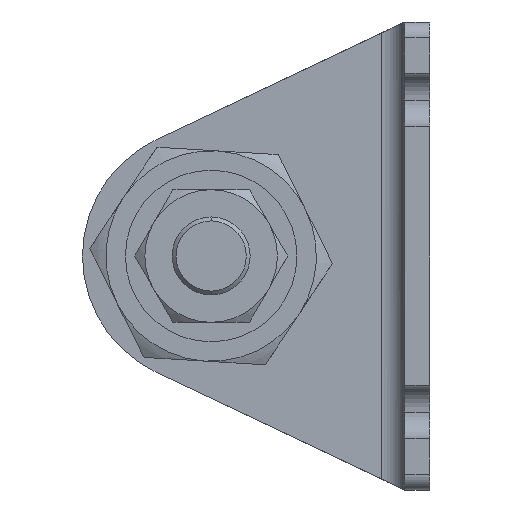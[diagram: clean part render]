
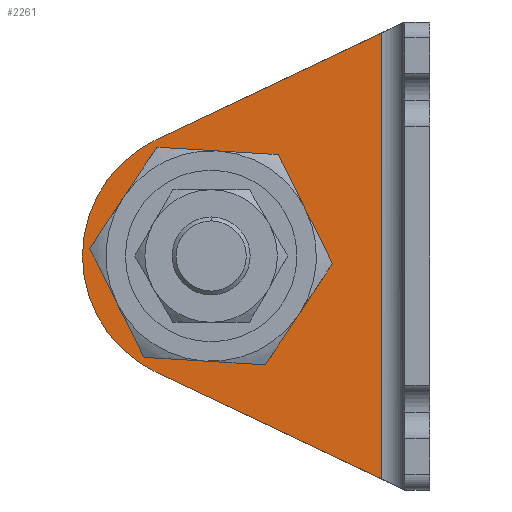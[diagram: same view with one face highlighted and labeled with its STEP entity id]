
A CAD part, left-side view. The second image highlights one B-rep face of the part: STEP entity #2261.
In plain terms, the highlighted planar face has unit normal (-1, 0, 0) as drawn and (1, 0, 0) by its records, which use the part's own axes.
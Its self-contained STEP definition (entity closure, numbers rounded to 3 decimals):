
#90 = VERTEX_POINT ( 'NONE', #1363 ) ;
#116 = CARTESIAN_POINT ( 'NONE',  ( 3.2, 44.5, -30. ) ) ;
#181 = CARTESIAN_POINT ( 'NONE',  ( 3.2, 6.2, -60. ) ) ;
#371 = ORIENTED_EDGE ( 'NONE', *, *, #2747, .T. ) ;
#384 = DIRECTION ( 'NONE',  ( 0., 1., 0. ) ) ;
#569 = DIRECTION ( 'NONE',  ( 0., 1., 0. ) ) ;
#578 = DIRECTION ( 'NONE',  ( 0., 1., 0. ) ) ;
#627 = EDGE_CURVE ( 'NONE', #90, #1677, #2644, .T. ) ;
#630 = EDGE_CURVE ( 'NONE', #4085, #2565, #723, .T. ) ;
#723 = CIRCLE ( 'NONE', #2552, 11.5 ) ;
#750 = EDGE_LOOP ( 'NONE', ( #3945, #1375 ) ) ;
#768 = DIRECTION ( 'NONE',  ( 1., 0., 0. ) ) ;
#800 = CARTESIAN_POINT ( 'NONE',  ( 3.2, 26.408, -10.99 ) ) ;
#1004 = DIRECTION ( 'NONE',  ( 0., 0.904, -0.428 ) ) ;
#1063 = EDGE_LOOP ( 'NONE', ( #3465, #1917, #371, #3527, #1204 ) ) ;
#1087 = LINE ( 'NONE', #181, #1550 ) ;
#1170 = CARTESIAN_POINT ( 'NONE',  ( 3.2, 35.062, -15.087 ) ) ;
#1204 = ORIENTED_EDGE ( 'NONE', *, *, #1650, .T. ) ;
#1205 = AXIS2_PLACEMENT_3D ( 'NONE', #4212, #2509, #569 ) ;
#1306 = DIRECTION ( 'NONE',  ( 0., 1., 0. ) ) ;
#1363 = CARTESIAN_POINT ( 'NONE',  ( 3.2, 6.2, -1.421 ) ) ;
#1375 = ORIENTED_EDGE ( 'NONE', *, *, #630, .F. ) ;
#1422 = PLANE ( 'NONE',  #1205 ) ;
#1509 = VERTEX_POINT ( 'NONE', #2476 ) ;
#1532 = EDGE_CURVE ( 'NONE', #2565, #4085, #3562, .T. ) ;
#1550 = VECTOR ( 'NONE', #3963, 1000. ) ;
#1627 = CARTESIAN_POINT ( 'NONE',  ( 3.2, 28., -30. ) ) ;
#1650 = EDGE_CURVE ( 'NONE', #3878, #1677, #1833, .T. ) ;
#1657 = DIRECTION ( 'NONE',  ( 0., 0.904, 0.428 ) ) ;
#1677 = VERTEX_POINT ( 'NONE', #1170 ) ;
#1833 = CIRCLE ( 'NONE', #3218, 16.5 ) ;
#1902 = VECTOR ( 'NONE', #1657, 1000. ) ;
#1917 = ORIENTED_EDGE ( 'NONE', *, *, #2914, .T. ) ;
#2261 = ADVANCED_FACE ( 'NONE', ( #3933, #2580 ), #1422, .T. ) ;
#2476 = CARTESIAN_POINT ( 'NONE',  ( 3.2, 35.062, -44.913 ) ) ;
#2481 = CIRCLE ( 'NONE', #3880, 16.5 ) ;
#2509 = DIRECTION ( 'NONE',  ( 1., 0., 0. ) ) ;
#2552 = AXIS2_PLACEMENT_3D ( 'NONE', #1627, #4225, #578 ) ;
#2565 = VERTEX_POINT ( 'NONE', #3861 ) ;
#2580 = FACE_BOUND ( 'NONE', #750, .T. ) ;
#2619 = CARTESIAN_POINT ( 'NONE',  ( 3.2, 28., -30. ) ) ;
#2644 = LINE ( 'NONE', #800, #4011 ) ;
#2685 = DIRECTION ( 'NONE',  ( 1., 0., 0. ) ) ;
#2747 = EDGE_CURVE ( 'NONE', #3569, #1509, #3436, .T. ) ;
#2760 = AXIS2_PLACEMENT_3D ( 'NONE', #4181, #2685, #4258 ) ;
#2822 = DIRECTION ( 'NONE',  ( 1., 0., 0. ) ) ;
#2897 = EDGE_CURVE ( 'NONE', #1509, #3878, #2481, .T. ) ;
#2914 = EDGE_CURVE ( 'NONE', #90, #3569, #1087, .T. ) ;
#3044 = CARTESIAN_POINT ( 'NONE',  ( 3.2, 16.5, -30. ) ) ;
#3218 = AXIS2_PLACEMENT_3D ( 'NONE', #2619, #768, #1306 ) ;
#3436 = LINE ( 'NONE', #3908, #1902 ) ;
#3465 = ORIENTED_EDGE ( 'NONE', *, *, #627, .F. ) ;
#3527 = ORIENTED_EDGE ( 'NONE', *, *, #2897, .T. ) ;
#3562 = CIRCLE ( 'NONE', #2760, 11.5 ) ;
#3569 = VERTEX_POINT ( 'NONE', #3858 ) ;
#3858 = CARTESIAN_POINT ( 'NONE',  ( 3.2, 6.2, -58.579 ) ) ;
#3861 = CARTESIAN_POINT ( 'NONE',  ( 3.2, 39.5, -30. ) ) ;
#3878 = VERTEX_POINT ( 'NONE', #116 ) ;
#3880 = AXIS2_PLACEMENT_3D ( 'NONE', #3959, #2822, #384 ) ;
#3908 = CARTESIAN_POINT ( 'NONE',  ( 3.2, 3.2, -60. ) ) ;
#3933 = FACE_OUTER_BOUND ( 'NONE', #1063, .T. ) ;
#3945 = ORIENTED_EDGE ( 'NONE', *, *, #1532, .F. ) ;
#3959 = CARTESIAN_POINT ( 'NONE',  ( 3.2, 28., -30. ) ) ;
#3963 = DIRECTION ( 'NONE',  ( 0., 0., -1. ) ) ;
#4011 = VECTOR ( 'NONE', #1004, 1000. ) ;
#4085 = VERTEX_POINT ( 'NONE', #3044 ) ;
#4181 = CARTESIAN_POINT ( 'NONE',  ( 3.2, 28., -30. ) ) ;
#4212 = CARTESIAN_POINT ( 'NONE',  ( 3.2, 3.2, -60. ) ) ;
#4225 = DIRECTION ( 'NONE',  ( 1., 0., 0. ) ) ;
#4258 = DIRECTION ( 'NONE',  ( 0., 1., 0. ) ) ;
